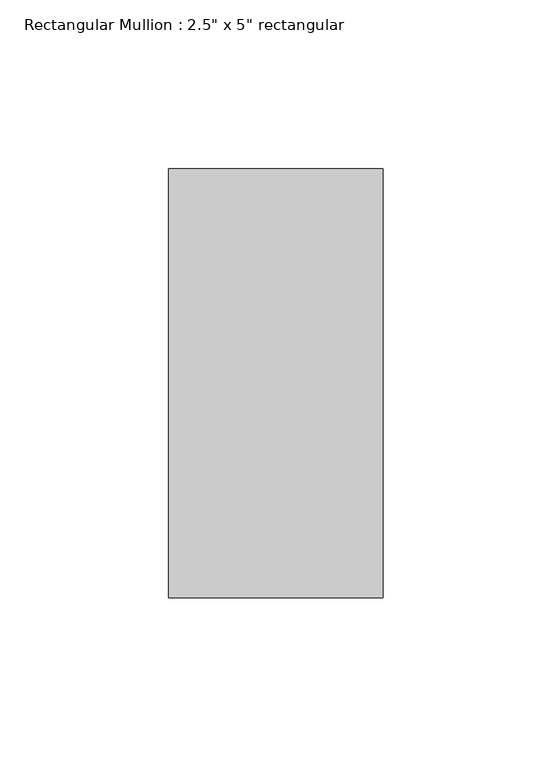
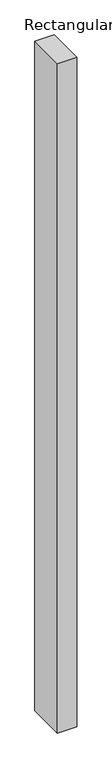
"""IFC4 building model written with IfcOpenShell, lengths in millimetres: member geometry."""

import ifcopenshell
import ifcopenshell.guid

model = None  # the IFC model being written
_history = None  # IfcOwnerHistory: only IFC2X3 demands one
_inside = {}  # id of a spatial element -> (the spatial element, [elements in it])
_under = {}  # id of a project, library or spatial element -> (it, [spatial elements below it])
_declared = {}  # id of a project -> (the project, [libraries it declares])
_typed = {}  # id of a type object -> (the type object, [elements of that type])
_made_of = {}  # id of a material, layer set ... -> (it, [elements and type objects made of it])


def new_model(schema):
    """Start an empty IFC model of exactly this schema.

    Asked for "IFC4X3", IfcOpenShell would pick the latest addendum, in which some entities
    have other attributes; the version numbers below select the first issue.
    IFC2X3 requires an IfcOwnerHistory on every rooted entity: one is made here for all.
    """
    global model, _history
    if schema == "IFC4X3":
        model = ifcopenshell.file(schema_version=(4, 3, 0, 0))
    else:
        model = ifcopenshell.file(schema=schema)
    _inside.clear()
    _under.clear()
    _declared.clear()
    _typed.clear()
    _made_of.clear()
    _history = None
    if model.schema == "IFC2X3":
        org = make("IfcOrganization", Name="unknown")
        user = make(
            "IfcPersonAndOrganization",
            ThePerson=make("IfcPerson", FamilyName="unknown"),
            TheOrganization=org,
        )
        app = make(
            "IfcApplication",
            ApplicationDeveloper=org,
            Version="unknown",
            ApplicationFullName="unknown",
            ApplicationIdentifier="unknown",
        )
        _history = make(
            "IfcOwnerHistory",
            OwningUser=user,
            OwningApplication=app,
            ChangeAction="ADDED",
            CreationDate=0,
        )
    return model


def make(cls, **values):
    """One entity of the class cls with the attributes given. An attribute that is None is left unset."""
    return model.create_entity(
        cls, **{name: value for name, value in values.items() if value is not None}
    )


def rooted(cls, **values):
    """An entity with a GlobalId (a new one), such as an element, a storey or a relation."""
    return make(cls, GlobalId=ifcopenshell.guid.new(), OwnerHistory=_history, **values)


def si_unit(unit_type, name, prefix=None):
    """IfcSIUnit, for example si_unit("LENGTHUNIT", "METRE", prefix="MILLI")."""
    return make("IfcSIUnit", UnitType=unit_type, Prefix=prefix, Name=name)


def assignment(units):
    """IfcUnitAssignment: the units of a project."""
    return None if units is None else make("IfcUnitAssignment", Units=units)


def point(xyz):
    """IfcCartesianPoint."""
    return None if xyz is None else make("IfcCartesianPoint", Coordinates=xyz)


def direction(xyz):
    """IfcDirection."""
    return None if xyz is None else make("IfcDirection", DirectionRatios=xyz)


def frame(location, z_axis=None, x_axis=None):
    """IfcAxis2Placement3D, a coordinate frame: its origin and axes. An axis left out is left unset."""
    return make(
        "IfcAxis2Placement3D",
        Location=point(location),
        Axis=direction(z_axis),
        RefDirection=direction(x_axis),
    )


def origin():
    """The frame at (0, 0, 0) with its axes left unset."""
    return frame((0.0, 0.0, 0.0))


def place(relative_to, where):
    """IfcLocalPlacement: puts the frame where relative to a parent placement (None: the world)."""
    return make(
        "IfcLocalPlacement", PlacementRelTo=relative_to, RelativePlacement=where
    )


def context(
    kind, dimensions, precision=None, world=None, true_north=None, identifier=None
):
    """IfcGeometricRepresentationContext, for example the 3D "Model" context."""
    return make(
        "IfcGeometricRepresentationContext",
        ContextIdentifier=identifier,
        ContextType=kind,
        CoordinateSpaceDimension=dimensions,
        Precision=precision,
        WorldCoordinateSystem=world,
        TrueNorth=true_north,
    )


def project(units=None, contexts=None):
    """IfcProject with its units and contexts."""
    return rooted(
        "IfcProject",
        Name="project",
        RepresentationContexts=contexts,
        UnitsInContext=assignment(units),
    )


def spatial(cls, under=None, at=None, **own):
    """A site, building, storey or space (cls), placed at a placement, below another one or the project."""
    s = rooted(cls, ObjectPlacement=at, **own)
    if under is not None:
        _under.setdefault(under.id(), (under, []))[1].append(s)
    return s


def polyline(points):
    """IfcPolyline through the points."""
    return make("IfcPolyline", Points=[point(p) for p in points])


def outline(outer, holes=None, kind="AREA"):
    """IfcArbitraryClosedProfileDef: a profile drawn as a closed curve; with holes, ...WithVoids."""
    if holes is None:
        return make("IfcArbitraryClosedProfileDef", ProfileType=kind, OuterCurve=outer)
    return make(
        "IfcArbitraryProfileDefWithVoids",
        ProfileType=kind,
        OuterCurve=outer,
        InnerCurves=holes,
    )


def extrude(swept, where, along, depth):
    """IfcExtrudedAreaSolid: the profile swept, set in the frame where, extruded along a direction by depth."""
    return make(
        "IfcExtrudedAreaSolid",
        SweptArea=swept,
        Position=where,
        ExtrudedDirection=direction(along),
        Depth=depth,
    )


def shape(context_of_items, identifier, shape_type, items):
    """IfcShapeRepresentation: the items that make up one representation, for example the "Body"."""
    return make(
        "IfcShapeRepresentation",
        ContextOfItems=context_of_items,
        RepresentationIdentifier=identifier,
        RepresentationType=shape_type,
        Items=items,
    )


def source(mapping_origin, context_of_items, identifier, shape_type, items):
    """IfcRepresentationMap: a shape defined once, which mapped items show again and again."""
    return make(
        "IfcRepresentationMap",
        MappingOrigin=mapping_origin,
        MappedRepresentation=shape(context_of_items, identifier, shape_type, items),
    )


def transform(
    local_origin,
    x_axis=None,
    y_axis=None,
    z_axis=None,
    scale=None,
    scale2=None,
    scale3=None,
    uniform=True,
):
    """IfcCartesianTransformationOperator3D, or its non-uniform kind. x_axis, y_axis, z_axis: its Axis1, 2, 3."""
    if uniform:
        return make(
            "IfcCartesianTransformationOperator3D",
            Axis1=direction(x_axis),
            Axis2=direction(y_axis),
            LocalOrigin=point(local_origin),
            Scale=scale,
            Axis3=direction(z_axis),
        )
    return make(
        "IfcCartesianTransformationOperator3DnonUniform",
        Axis1=direction(x_axis),
        Axis2=direction(y_axis),
        LocalOrigin=point(local_origin),
        Scale=scale,
        Axis3=direction(z_axis),
        Scale2=scale2,
        Scale3=scale3,
    )


def mapped(mapping_source, mapping_target):
    """IfcMappedItem: shows the shape of a source again, moved by a transform."""
    return make(
        "IfcMappedItem", MappingSource=mapping_source, MappingTarget=mapping_target
    )


def made_of(thing, what):
    """Note that an element or type object is made of a material, layer set ...; save() writes the relation."""
    if what is not None:
        _made_of.setdefault(what.id(), (what, []))[1].append(thing)
    return thing


def element(
    cls,
    number,
    at=None,
    inside=None,
    cuts=None,
    type_object=None,
    material=None,
    context=None,
    identifier="Body",
    shape_type=None,
    held_by="IfcProductDefinitionShape",
    body=None,
    shapes=None,
    **own,
):
    """One element of the class cls, such as IfcWall. Its Tag is "e" and its number.

    at: its placement. inside: the storey or other place that contains it. cuts: it is an
    opening in that element (IfcRelVoidsElement). A single representation is given by context,
    identifier, shape_type and body (its items); several are given by shapes. held_by: the class
    of the entity that holds the representations. save() writes the other relations.
    """
    e = rooted(cls, Tag="e%d" % number, ObjectPlacement=at, **own)
    if body is not None:
        shapes = [shape(context, identifier, shape_type, body)]
    if shapes is not None:
        e.Representation = make(held_by, Representations=shapes)
    if inside is not None:
        _inside.setdefault(inside.id(), (inside, []))[1].append(e)
    if cuts is not None:
        rooted(
            "IfcRelVoidsElement", RelatingBuildingElement=cuts, RelatedOpeningElement=e
        )
    if type_object is not None:
        _typed.setdefault(type_object.id(), (type_object, []))[1].append(e)
    return made_of(e, material)


def aggregate(whole, parts):
    """IfcRelAggregates: a whole, such as a stair, and the parts it consists of."""
    return rooted("IfcRelAggregates", RelatingObject=whole, RelatedObjects=parts)


def save(model, path):
    """Write the relations noted so far, then the file.

    IfcRelAggregates (storeys below a building ...), IfcRelContainedInSpatialStructure (elements
    in a storey), IfcRelDefinesByType, IfcRelAssociatesMaterial and IfcRelDeclares: one each for
    every whole, place, type object, material and project.
    """
    for whole, parts in _under.values():
        aggregate(whole, parts)
    for where, things in _inside.values():
        rooted(
            "IfcRelContainedInSpatialStructure",
            RelatedElements=things,
            RelatingStructure=where,
        )
    for kind, things in _typed.values():
        rooted("IfcRelDefinesByType", RelatedObjects=things, RelatingType=kind)
    for what, things in _made_of.values():
        rooted("IfcRelAssociatesMaterial", RelatedObjects=things, RelatingMaterial=what)
    for by, libraries in _declared.values():
        rooted("IfcRelDeclares", RelatingContext=by, RelatedDefinitions=libraries)
    model.write(path)


def member_834be1e1(model_context):
    return source(origin(), model_context, "Body", "SweptSolid", [
        extrude(outline(polyline([(0.0, 63.5), (0.0, -63.5), (-63.5, -63.5), (-63.5, 63.5), (0.0, 63.5)])), frame((0.0, 0.0, -2307.9949331), z_axis=(0.0, 0.0, 1.0), x_axis=(1.0, 0.0, 0.0)), (0.0, 0.0, 1.0), 2307.9949331),
    ])


if __name__ == "__main__":
    model = new_model("IFC4")
    model_context = context("Model", 3, world=origin())
    ifc_project = project(units=[si_unit("LENGTHUNIT", "METRE", prefix="MILLI")], contexts=[model_context])
    site = spatial("IfcSite", under=ifc_project)
    building = spatial("IfcBuilding", under=site)
    placement = place(None, origin())
    member_shape = member_834be1e1(model_context)
    element("IfcMember", 1, ObjectType="Rectangular Mullion : 2.5\" x 5\" rectangular", at=placement, inside=building, context=model_context, shape_type="MappedRepresentation", body=[
        mapped(member_shape, transform((0.0, 0.0, 0.0), x_axis=(1.0, 0.0, 0.0), y_axis=(0.0, 1.0, 0.0), z_axis=(0.0, 0.0, 1.0))),
    ])
    save(model, "model.ifc")
